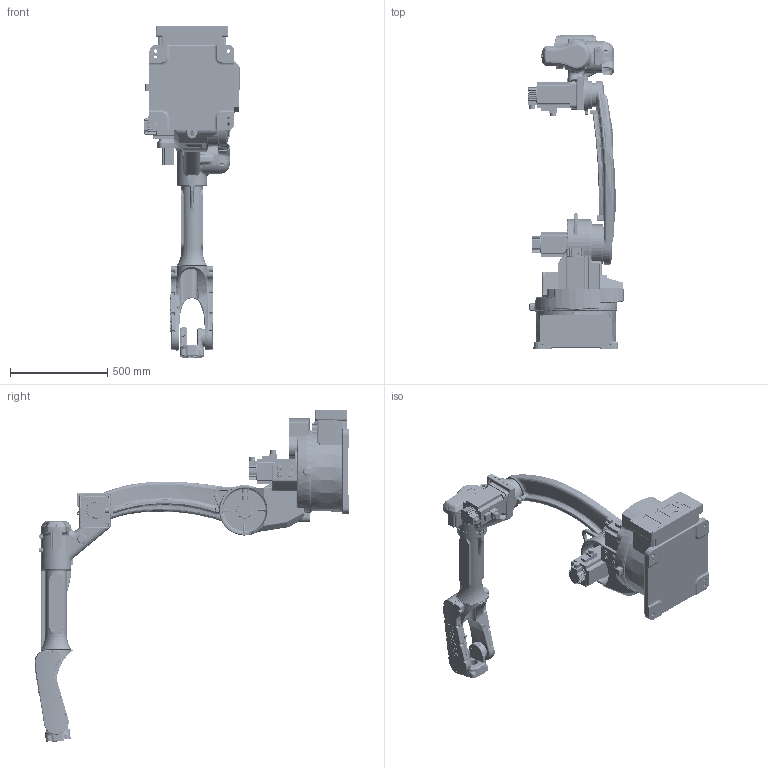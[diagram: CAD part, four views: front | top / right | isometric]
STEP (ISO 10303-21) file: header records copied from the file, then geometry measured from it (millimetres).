
FILE_DESCRIPTION (( 'STEP AP214' ), '1' );
FILE_NAME ('TKB2030.STEP', '2021-06-18T08:37:16', ( '' ), ( '' ), 'SwSTEP 2.0', 'SolidWorks 2018', '' );
FILE_SCHEMA (( 'AUTOMOTIVE_DESIGN' ));
Length unit declared in the file: millimetre
Products named in the file (8): TKB2030ASS2; TKB2030-02; TKB1520ASS4; TKB2030; TKB2030ASS3; TKB2030-AS1; TKB1520ASS6; TKB2030ASS5
Assembly tree (7 placements, depth 2):
  TKB2030
    TKB2030-AS1
    TKB2030ASS2
    TKB2030ASS3
    TKB1520ASS4
    TKB2030-02
    TKB2030ASS5
    TKB1520ASS6
Bounding box: 489.5 x 1621.06 x 1709.42 mm (x, y, z)
Volume: 43376155.7 mm3; surface area: 5107651.9 mm2
Topology: 7 solids, 64 shells, 6826 faces, 18724 edges, 11803 vertices
Faces by surface type: cylinder 2677, bspline 1886, plane 1429, torus 377, cone 371, sphere 86
Entity records: 444017 total; most frequent: CARTESIAN_POINT 222274, ORIENTED_EDGE 34293, DIRECTION 29870, EDGE_CURVE 18487, AXIS2_PLACEMENT_3D 11975, VERTEX_POINT 11788, EDGE_LOOP 7602, CIRCLE 7024
